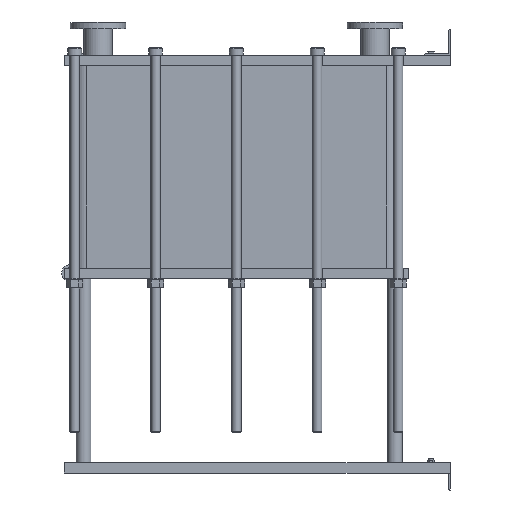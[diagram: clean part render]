
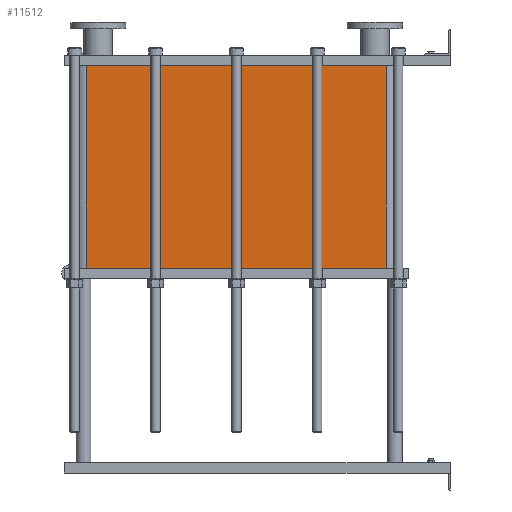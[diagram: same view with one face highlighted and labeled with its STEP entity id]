
A CAD part, left-side view. The second image highlights one B-rep face of the part: STEP entity #11512.
In plain terms, the highlighted planar face has unit normal (-1, 0, 0).
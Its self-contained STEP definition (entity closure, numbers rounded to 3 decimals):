
#1129=LINE('',#23232,#2102);
#1130=LINE('',#23236,#2103);
#1131=LINE('',#23238,#2104);
#1132=LINE('',#23239,#2105);
#2102=VECTOR('',#15887,10.);
#2103=VECTOR('',#15892,10.);
#2104=VECTOR('',#15893,10.);
#2105=VECTOR('',#15894,10.);
#3267=FACE_OUTER_BOUND('',#4093,.T.);
#4093=EDGE_LOOP('',(#10103,#10104,#10105,#10106));
#5642=VERTEX_POINT('',#23229);
#5643=VERTEX_POINT('',#23231);
#5644=VERTEX_POINT('',#23235);
#5645=VERTEX_POINT('',#23237);
#7159=EDGE_CURVE('',#5643,#5642,#1129,.T.);
#7161=EDGE_CURVE('',#5642,#5644,#1130,.T.);
#7162=EDGE_CURVE('',#5645,#5644,#1131,.T.);
#7163=EDGE_CURVE('',#5645,#5643,#1132,.T.);
#10103=ORIENTED_EDGE('',*,*,#7161,.T.);
#10104=ORIENTED_EDGE('',*,*,#7162,.F.);
#10105=ORIENTED_EDGE('',*,*,#7163,.T.);
#10106=ORIENTED_EDGE('',*,*,#7159,.T.);
#10857=PLANE('',#12751);
#11512=ADVANCED_FACE('',(#3267),#10857,.T.);
#12751=AXIS2_PLACEMENT_3D('',#23234,#15890,#15891);
#15887=DIRECTION('',(0.,0.,-1.));
#15890=DIRECTION('center_axis',(-1.,0.,0.));
#15891=DIRECTION('ref_axis',(0.,1.,0.));
#15892=DIRECTION('',(0.,-1.,0.));
#15893=DIRECTION('',(0.,0.,-1.));
#15894=DIRECTION('',(0.,1.,0.));
#23229=CARTESIAN_POINT('',(-200.,1414.,-786.6));
#23231=CARTESIAN_POINT('',(-200.,1414.,0.));
#23232=CARTESIAN_POINT('',(-200.,1414.,0.));
#23234=CARTESIAN_POINT('Origin',(-200.,248.,0.));
#23235=CARTESIAN_POINT('',(-200.,248.,-786.6));
#23236=CARTESIAN_POINT('',(-200.,539.5,-786.6));
#23237=CARTESIAN_POINT('',(-200.,248.,0.));
#23238=CARTESIAN_POINT('',(-200.,248.,0.));
#23239=CARTESIAN_POINT('',(-200.,248.,0.));
